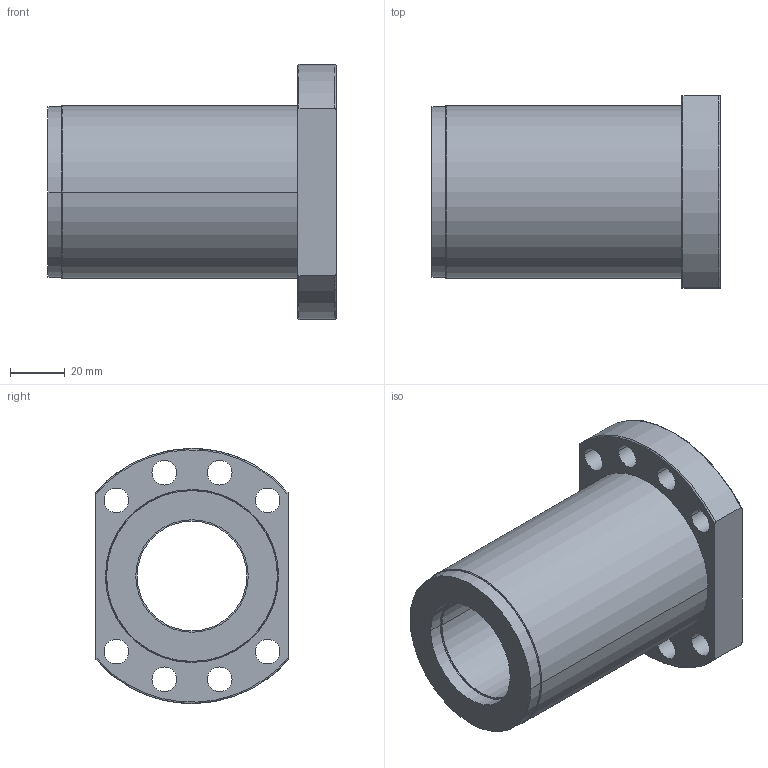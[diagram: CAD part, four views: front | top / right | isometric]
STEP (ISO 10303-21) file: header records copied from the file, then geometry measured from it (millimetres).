
FILE_DESCRIPTION (( 'STEP AP214' ), '1' );
FILE_NAME ('2.3009 Kuularuuvimutteri SFS4040-3,8.STEP', '2024-05-03T11:40:50', ( '' ), ( '' ), 'SwSTEP 2.0', 'SolidWorks 2024', '' );
FILE_SCHEMA (( 'AUTOMOTIVE_DESIGN' ));
Length unit declared in the file: millimetre
Products named in the file (1): 2.3009 Kuularuuvimutteri SFS4040-3,8
Bounding box: 105 x 70 x 93 mm (x, y, z)
Volume: 227021.1 mm3; surface area: 55358.1 mm2
Topology: 3 solids, 3 shells, 54 faces, 130 edges, 86 vertices
Faces by surface type: cylinder 36, plane 12, torus 6
Entity records: 2539 total; most frequent: CARTESIAN_POINT 1069, DIRECTION 304, ORIENTED_EDGE 260, AXIS2_PLACEMENT_3D 131, EDGE_CURVE 130, VERTEX_POINT 86, EDGE_LOOP 80, CIRCLE 76
